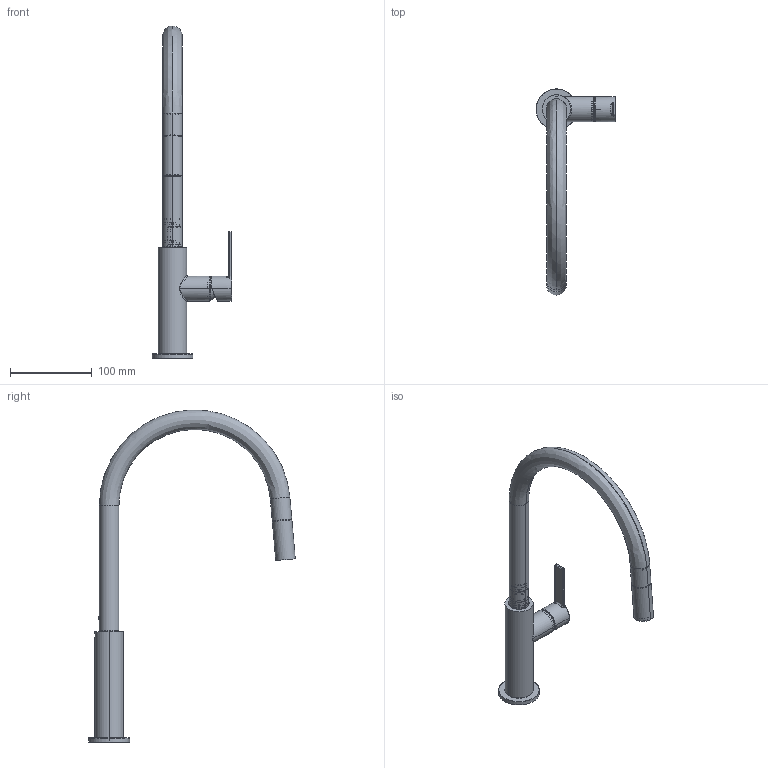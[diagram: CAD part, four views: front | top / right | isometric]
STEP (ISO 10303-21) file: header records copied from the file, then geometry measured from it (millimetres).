
FILE_DESCRIPTION(/* description */ (''),/* implementation_level */ '2;1');
FILE_NAME(/* name */ '3D001_Taps_Maris-Slim_J-Pull-Down-Nozzle',/* time_stamp */ '2026-08-03T16:32:55+02:00',/* author */ (''),/* organization */ (''),/* preprocessor_version */ 'ST-DEVELOPER v19.2',/* originating_system */ 'Rhino 8.31',/* authorisation */ '');
FILE_SCHEMA (('CONFIG_CONTROL_DESIGN'));
Products named in the file (17): Document; SMM254651; SGU151220; SGU150190; SGU150240; SGU152250; S_PRG_FR03424_0002_CANNA; SBU050670; SMN603190; SGU151110; SMN602580; SMM254610; SBU050801; SBU050510; SMN604720; SZA601910; SMM256440
Bounding box: 97.95 x 253.16 x 406.99 mm (x, y, z)
Volume: 70124 mm3; surface area: 130619.1 mm2
Topology: 25 solids, 1123 shells, 2120 faces, 8834 edges, 7862 vertices
Faces by surface type: plane 1337, cylinder 412, bspline 371
Entity records: 107272 total; most frequent: CARTESIAN_POINT 49940, ORIENTED_EDGE 10874, EDGE_CURVE 8625, VERTEX_POINT 7741, B_SPLINE_CURVE_WITH_KNOTS 7264, DIRECTION 4540, AXIS2_PLACEMENT_3D 3127, EDGE_LOOP 2457
